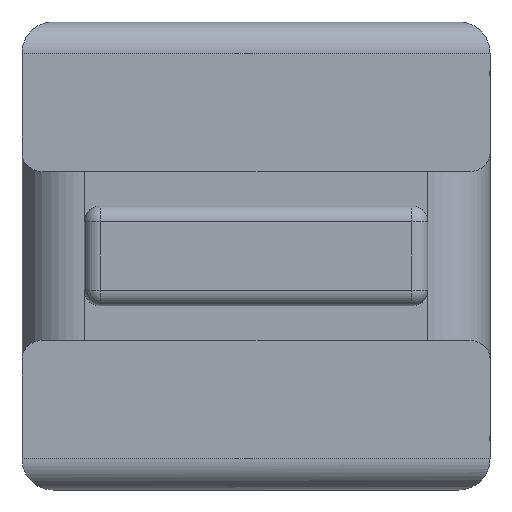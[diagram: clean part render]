
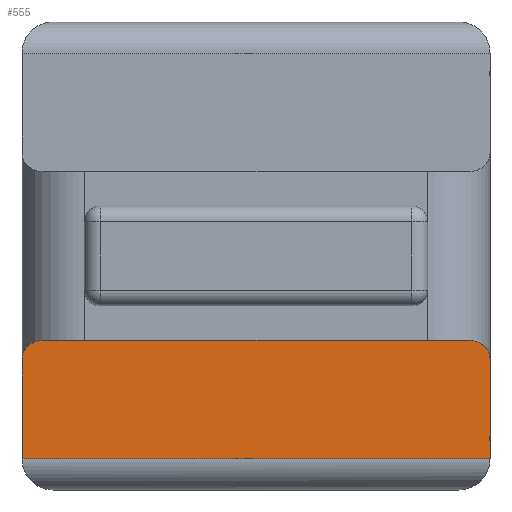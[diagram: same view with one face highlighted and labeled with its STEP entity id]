
A CAD part, front view. The second image highlights one B-rep face of the part: STEP entity #555.
In plain terms, the highlighted planar face has unit normal (0, -1, 0).
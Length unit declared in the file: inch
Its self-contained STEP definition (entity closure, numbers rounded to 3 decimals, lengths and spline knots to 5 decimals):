
#1 = CARTESIAN_POINT ( 'NONE',  ( 0.35972, 0., -0.13968 ) ) ;
#11 = CARTESIAN_POINT ( 'NONE',  ( -0.375, 0., -0.1604 ) ) ;
#16 = CARTESIAN_POINT ( 'NONE',  ( -0.375, 0., -0.16484 ) ) ;
#23 = CARTESIAN_POINT ( 'NONE',  ( 0.36975, 0., -0.14833 ) ) ;
#25 = CARTESIAN_POINT ( 'NONE',  ( 0.375, 0., -0.16484 ) ) ;
#26 = EDGE_CURVE ( 'NONE', #1223, #726, #255, .T. ) ;
#28 = CARTESIAN_POINT ( 'NONE',  ( 0.34289, 0., -0.13484 ) ) ;
#39 = DIRECTION ( 'NONE',  ( 0., 0., 1. ) ) ;
#91 = EDGE_CURVE ( 'NONE', #1059, #1063, #1444, .T. ) ;
#96 = LINE ( 'NONE', #1073, #172 ) ;
#117 = DIRECTION ( 'NONE',  ( 0., 0., -1. ) ) ;
#136 = CARTESIAN_POINT ( 'NONE',  ( -0.36677, 0., -0.14496 ) ) ;
#146 = CARTESIAN_POINT ( 'NONE',  ( 0.375, 0., -0.16041 ) ) ;
#155 = VERTEX_POINT ( 'NONE', #191 ) ;
#161 = CARTESIAN_POINT ( 'NONE',  ( -0.375, 0., 0.375 ) ) ;
#172 = VECTOR ( 'NONE', #1327, 39.37008 ) ;
#182 = EDGE_CURVE ( 'NONE', #155, #698, #1540, .T. ) ;
#191 = CARTESIAN_POINT ( 'NONE',  ( -0.375, 0., -0.325 ) ) ;
#196 = VECTOR ( 'NONE', #1406, 39.37008 ) ;
#199 = ORIENTED_EDGE ( 'NONE', *, *, #26, .F. ) ;
#220 = CARTESIAN_POINT ( 'NONE',  ( 0., 0., 0. ) ) ;
#238 = VERTEX_POINT ( 'NONE', #16 ) ;
#240 = ORIENTED_EDGE ( 'NONE', *, *, #1525, .F. ) ;
#254 = DIRECTION ( 'NONE',  ( 0., -1., 0. ) ) ;
#255 = LINE ( 'NONE', #1529, #868 ) ;
#257 = CARTESIAN_POINT ( 'NONE',  ( 0.33848, 0., -0.13484 ) ) ;
#263 = EDGE_CURVE ( 'NONE', #155, #312, #1530, .T. ) ;
#278 = CARTESIAN_POINT ( 'NONE',  ( 0.35568, 0., -0.13778 ) ) ;
#287 = CARTESIAN_POINT ( 'NONE',  ( -0.35969, 0., -0.13966 ) ) ;
#312 = VERTEX_POINT ( 'NONE', #709 ) ;
#335 = ORIENTED_EDGE ( 'NONE', *, *, #639, .T. ) ;
#409 = CARTESIAN_POINT ( 'NONE',  ( -0.34289, 0., -0.13484 ) ) ;
#450 = CARTESIAN_POINT ( 'NONE',  ( -0.33848, 0., -0.13484 ) ) ;
#508 = DIRECTION ( 'NONE',  ( 1., 0., 0. ) ) ;
#522 = CARTESIAN_POINT ( 'NONE',  ( -0.36972, 0., -0.14827 ) ) ;
#526 = CARTESIAN_POINT ( 'NONE',  ( 0.375, 0., -0.325 ) ) ;
#555 = ADVANCED_FACE ( 'NONE', ( #1220 ), #1591, .T. ) ;
#627 = CARTESIAN_POINT ( 'NONE',  ( -0.34722, 0., -0.13536 ) ) ;
#639 = EDGE_CURVE ( 'NONE', #1223, #238, #648, .T. ) ;
#641 = CARTESIAN_POINT ( 'NONE',  ( 0.37387, 0., -0.15605 ) ) ;
#648 = B_SPLINE_CURVE_WITH_KNOTS ( 'NONE', 3,
 ( #873, #409, #627, #1130, #287, #136, #522, #786, #11, #1023 ),
 .UNSPECIFIED., .F., .F.,
 ( 4, 2, 2, 2, 4 ),
 ( 0., 0.00033, 0.00066, 0.001, 0.00133 ),
 .UNSPECIFIED. ) ;
#676 = LINE ( 'NONE', #161, #1044 ) ;
#698 = VERTEX_POINT ( 'NONE', #1508 ) ;
#706 = ORIENTED_EDGE ( 'NONE', *, *, #182, .F. ) ;
#709 = CARTESIAN_POINT ( 'NONE',  ( 0.375, 0., -0.325 ) ) ;
#726 = VERTEX_POINT ( 'NONE', #1374 ) ;
#768 = AXIS2_PLACEMENT_3D ( 'NONE', #220, #254, #117 ) ;
#771 = CARTESIAN_POINT ( 'NONE',  ( 0.34722, 0., -0.13536 ) ) ;
#786 = CARTESIAN_POINT ( 'NONE',  ( -0.37388, 0., -0.15606 ) ) ;
#795 = CARTESIAN_POINT ( 'NONE',  ( -0.375, 0., 0.375 ) ) ;
#850 = DIRECTION ( 'NONE',  ( 0., 0., -1. ) ) ;
#868 = VECTOR ( 'NONE', #508, 39.37008 ) ;
#873 = CARTESIAN_POINT ( 'NONE',  ( -0.33848, 0., -0.13484 ) ) ;
#914 = EDGE_CURVE ( 'NONE', #1063, #312, #96, .T. ) ;
#951 = VECTOR ( 'NONE', #1011, 39.37008 ) ;
#1011 = DIRECTION ( 'NONE',  ( 1., 0., 0. ) ) ;
#1023 = CARTESIAN_POINT ( 'NONE',  ( -0.375, 0., -0.16484 ) ) ;
#1044 = VECTOR ( 'NONE', #39, 39.37008 ) ;
#1059 = VERTEX_POINT ( 'NONE', #25 ) ;
#1063 = VERTEX_POINT ( 'NONE', #1500 ) ;
#1073 = CARTESIAN_POINT ( 'NONE',  ( 0.375, 0., 0.375 ) ) ;
#1130 = CARTESIAN_POINT ( 'NONE',  ( -0.35567, 0., -0.13778 ) ) ;
#1207 = ORIENTED_EDGE ( 'NONE', *, *, #1492, .T. ) ;
#1220 = FACE_OUTER_BOUND ( 'NONE', #1583, .T. ) ;
#1221 = B_SPLINE_CURVE_WITH_KNOTS ( 'NONE', 3,
 ( #1246, #146, #641, #23, #1387, #1, #278, #771, #28, #257 ),
 .UNSPECIFIED., .F., .F.,
 ( 4, 2, 2, 2, 4 ),
 ( 0., 0.00033, 0.00067, 0.001, 0.00133 ),
 .UNSPECIFIED. ) ;
#1223 = VERTEX_POINT ( 'NONE', #450 ) ;
#1246 = CARTESIAN_POINT ( 'NONE',  ( 0.375, 0., -0.16484 ) ) ;
#1279 = VECTOR ( 'NONE', #850, 39.37008 ) ;
#1327 = DIRECTION ( 'NONE',  ( 0., 0., -1. ) ) ;
#1344 = CARTESIAN_POINT ( 'NONE',  ( 0.375, 0., 0.375 ) ) ;
#1345 = ORIENTED_EDGE ( 'NONE', *, *, #263, .T. ) ;
#1374 = CARTESIAN_POINT ( 'NONE',  ( 0.33848, 0., -0.13484 ) ) ;
#1387 = CARTESIAN_POINT ( 'NONE',  ( 0.36677, 0., -0.14496 ) ) ;
#1406 = DIRECTION ( 'NONE',  ( 0., 0., 1. ) ) ;
#1444 = LINE ( 'NONE', #1344, #1279 ) ;
#1455 = ORIENTED_EDGE ( 'NONE', *, *, #91, .F. ) ;
#1492 = EDGE_CURVE ( 'NONE', #1059, #726, #1221, .T. ) ;
#1500 = CARTESIAN_POINT ( 'NONE',  ( 0.375, 0., -0.29734 ) ) ;
#1506 = ORIENTED_EDGE ( 'NONE', *, *, #914, .F. ) ;
#1508 = CARTESIAN_POINT ( 'NONE',  ( -0.375, 0., -0.29734 ) ) ;
#1525 = EDGE_CURVE ( 'NONE', #698, #238, #676, .T. ) ;
#1529 = CARTESIAN_POINT ( 'NONE',  ( -0.375, 0., -0.13484 ) ) ;
#1530 = LINE ( 'NONE', #526, #951 ) ;
#1540 = LINE ( 'NONE', #795, #196 ) ;
#1583 = EDGE_LOOP ( 'NONE', ( #706, #1345, #1506, #1455, #1207, #199, #335, #240 ) ) ;
#1591 = PLANE ( 'NONE',  #768 ) ;
